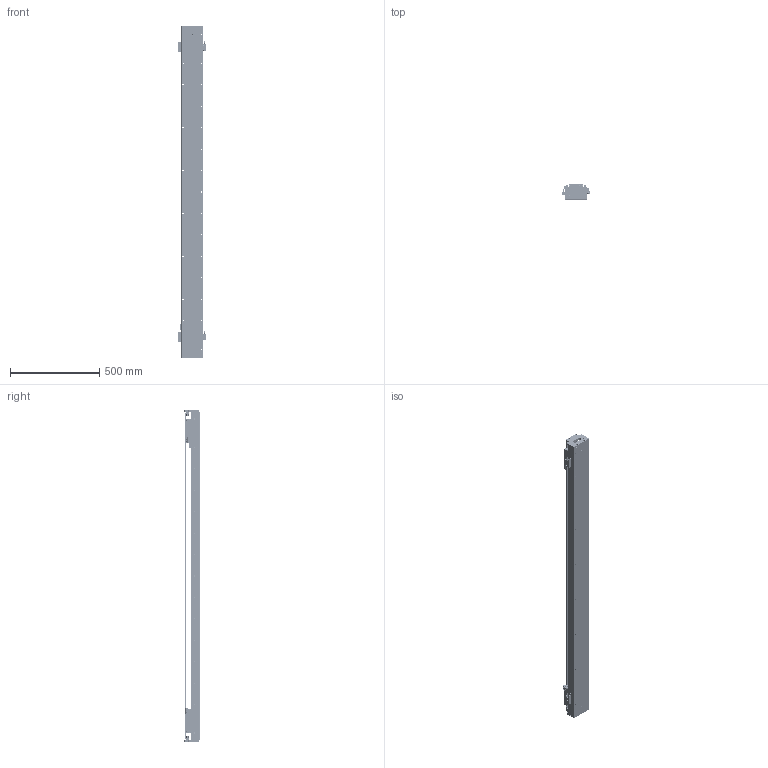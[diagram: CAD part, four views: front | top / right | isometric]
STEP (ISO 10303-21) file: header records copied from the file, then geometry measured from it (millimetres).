
FILE_DESCRIPTION (( 'STEP AP203' ), '1' );
FILE_NAME ('DKW120-2×B15-W060（T1460-L005-0.2）.STEP', '2021-09-29T02:51:33', ( '微软用户' ), ( '微软中国' ), 'SwSTEP 2.0', 'SolidWorks 2018', '' );
FILE_SCHEMA (( 'CONFIG_CONTROL_DESIGN' ));
Length unit declared in the file: millimetre
Products named in the file (26): MSB15TS2FC+U92.7-16.35_16.35N_(0_45.85_0_01G-M4); EE_SX674A; 12160-0000-003-00 DKW120詩湍嶺輸; BKM015-W060-C1-TP-3; DKW-DG-XJ-Z-00 笢潔滅袉砎蝶; 12160-0000-004-00  DKW120詩湍揤輸; B15-W060; DKW-GYP-ZJ-00 笢潔嫖萇覜茼え; DKW120 单轴模组-拉钢带组件; MSB15-DG-U; DKW-KGZ-ZJ-00 中间光电开关支架; BKMA01-W060-TRL280; 06652-0001-001-00 DKW120傷啣; DKW120-B15-T300-DZ-00 菁釱; DKW120-2×B15-W060（T1460-L005-0.2）; RUS嫖掑喜; 06652-0001-004-00 DKW120嶺輸菜輸; DKW-SG-GYP-H-00 嫖萇覜茼え; Ru2; DKW-HXJ-JY-00 遣喳砎蝶; DKW-HYB-JY-A-00 賑輸揤啣A; DKW119-RU-DTJ-00 RU2黍杅芛盓殤; 10940-0001-004-00 120詩湍裔啣; DKW119-HT-C15-00 賑怢啣; 10980-0001-003-00 嫖萇羲壽嘐隅釱; 砎蝶猾沭
Assembly tree (48 placements, depth 3):
  DKW120-2×B15-W060（T1460-L005-0.2）
    DKW120-B15-T300-DZ-00 菁釱
    B15-W060  x2
      DKW-SG-GYP-H-00 嫖萇覜茼え
      DKW-HYB-JY-A-00 賑輸揤啣A
      DKW119-HT-C15-00 賑怢啣
      MSB15TS2FC+U92.7-16.35_16.35N_(0_45.85_0_01G-M4)
      BKM015-W060-C1-TP-3
    MSB15-DG-U  x2
    DKW120 单轴模组-拉钢带组件
      06652-0001-001-00 DKW120傷啣  x2
      06652-0001-004-00 DKW120嶺輸菜輸  x4
      DKW-HXJ-JY-00 遣喳砎蝶  x4
      10940-0001-004-00 120詩湍裔啣
      砎蝶猾沭  x2
      12160-0000-003-00 DKW120詩湍嶺輸  x2
      12160-0000-004-00  DKW120詩湍揤輸  x2
    BKMA01-W060-TRL280
    RUS嫖掑喜
    Ru2  x2
    DKW119-RU-DTJ-00 RU2黍杅芛盓殤  x2
    10980-0001-003-00 嫖萇羲壽嘐隅釱  x2
    EE_SX674A  x5
    DKW-DG-XJ-Z-00 笢潔滅袉砎蝶
    DKW-GYP-ZJ-00 笢潔嫖萇覜茼え
    DKW-KGZ-ZJ-00 中间光电开关支架
Bounding box: 154.09 x 84 x 1856 mm (x, y, z)
Volume: 6759278.7 mm3; surface area: 2670029.3 mm2
Topology: 76 solids, 174 shells, 6916 faces, 18688 edges, 12043 vertices
Faces by surface type: plane 3938, cylinder 1888, cone 556, bspline 534
Entity records: 129778 total; most frequent: CARTESIAN_POINT 46147, ORIENTED_EDGE 17207, DIRECTION 15847, EDGE_CURVE 8644, VERTEX_POINT 5665, AXIS2_PLACEMENT_3D 5286, LINE 5275, VECTOR 5275
